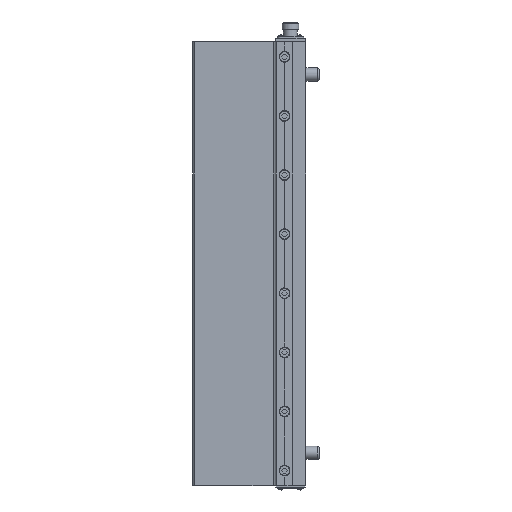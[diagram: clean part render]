
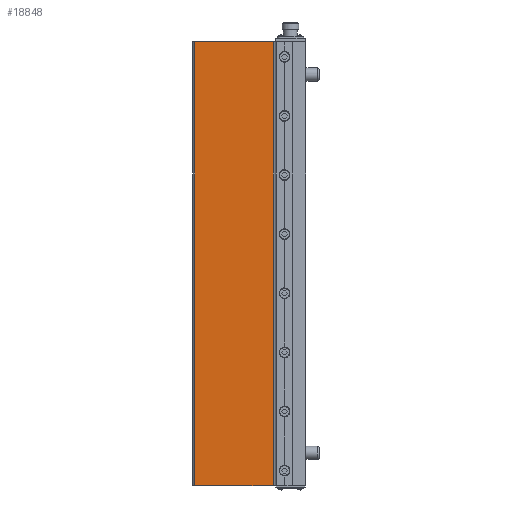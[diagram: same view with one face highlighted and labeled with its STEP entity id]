
A CAD part, left-side view. The second image highlights one B-rep face of the part: STEP entity #18848.
In plain terms, the highlighted planar face has unit normal (-1, 0.026, 0).
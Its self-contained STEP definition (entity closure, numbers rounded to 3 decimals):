
#2943=ORIENTED_EDGE('',*,*,#6252,.T.);
#2944=ORIENTED_EDGE('',*,*,#5306,.F.);
#2945=ORIENTED_EDGE('',*,*,#6251,.F.);
#2946=ORIENTED_EDGE('',*,*,#5756,.T.);
#5306=EDGE_CURVE('',#7196,#7197,#8530,.T.);
#5756=EDGE_CURVE('',#7620,#7619,#8761,.T.);
#6251=EDGE_CURVE('',#7620,#7196,#9037,.T.);
#6252=EDGE_CURVE('',#7619,#7197,#9038,.T.);
#7196=VERTEX_POINT('',#25466);
#7197=VERTEX_POINT('',#25468);
#7619=VERTEX_POINT('',#26654);
#7620=VERTEX_POINT('',#26656);
#8530=LINE('',#25467,#9864);
#8761=LINE('',#26655,#10095);
#9037=LINE('',#27586,#10371);
#9038=LINE('',#27588,#10372);
#9864=VECTOR('',#21498,1000.);
#10095=VECTOR('',#22069,1000.);
#10371=VECTOR('',#22965,1000.);
#10372=VECTOR('',#22968,1000.);
#11330=EDGE_LOOP('',(#2943,#2944,#2945,#2946));
#12266=FACE_BOUND('',#11330,.T.);
#13036=PLANE('',#20101);
#18848=ADVANCED_FACE('',(#12266),#13036,.T.);
#20101=AXIS2_PLACEMENT_3D('',#27587,#22966,#22967);
#21498=DIRECTION('',(-0.026,-1.,0.));
#22069=DIRECTION('',(-0.026,-1.,0.));
#22965=DIRECTION('',(0.,0.,1.));
#22966=DIRECTION('',(-1.,0.026,0.));
#22967=DIRECTION('',(-0.026,-1.,0.));
#22968=DIRECTION('',(0.,0.,1.));
#25466=CARTESIAN_POINT('',(-127.33,92.599,214.63));
#25467=CARTESIAN_POINT('',(-127.33,92.599,214.63));
#25468=CARTESIAN_POINT('',(-129.32,16.608,214.63));
#26654=CARTESIAN_POINT('',(-129.32,16.608,-214.63));
#26655=CARTESIAN_POINT('',(-127.33,92.599,-214.63));
#26656=CARTESIAN_POINT('',(-127.33,92.599,-214.63));
#27586=CARTESIAN_POINT('',(-127.33,92.599,-214.63));
#27587=CARTESIAN_POINT('',(-127.33,92.599,-214.63));
#27588=CARTESIAN_POINT('',(-129.32,16.608,-214.63));
